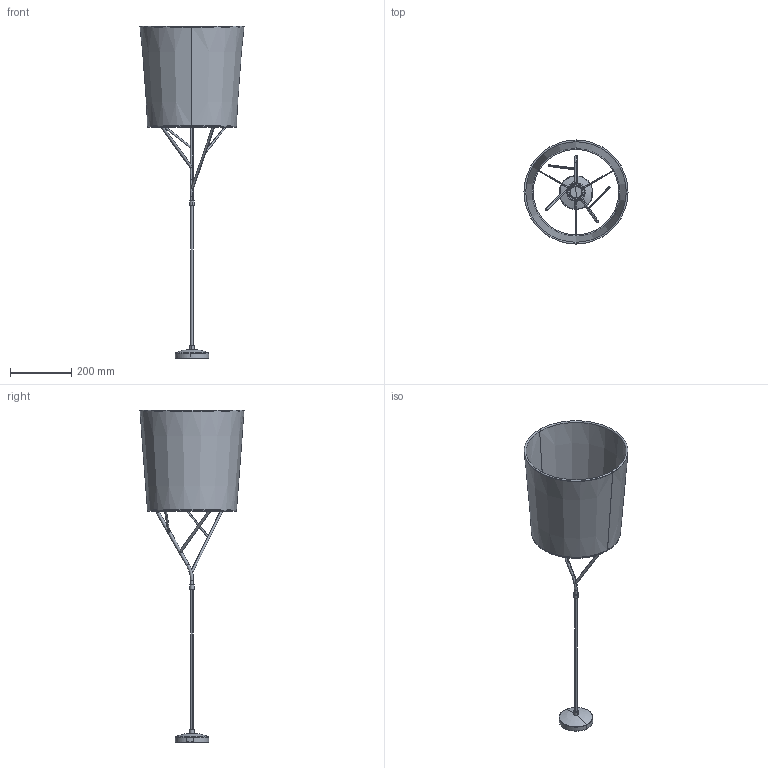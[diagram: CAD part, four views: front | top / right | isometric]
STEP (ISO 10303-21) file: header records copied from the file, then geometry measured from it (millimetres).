
FILE_DESCRIPTION(/* description */ (''),/* implementation_level */ '2;1');
FILE_NAME(/* name */ 'C:\Users\Franco Sartori E\Documents\FARO\DUPLICADO\Modelos\01_Digitalizados\00_OK\00_TREE\03_Publicación\29865.stp',/* time_stamp */ '2021-03-10T16:38:17+01:00',/* author */ ('Franco Sartori E'),/* organization */ (''),/* preprocessor_version */ 'ST-DEVELOPER v18.1',/* originating_system */ 'AutoCAD Mechanical',/* authorisation */ '');
FILE_SCHEMA (('AUTOMOTIVE_DESIGN { 1 0 10303 214 3 1 1 }'));
Length unit declared in the file: millimetre
Products named in the file (3): Product; TREE_CS - ceiling support-588587-Export; TREE_L - LAMP_S-588588-Export
Assembly tree (2 placements, depth 2):
  Product
    TREE_CS - ceiling support-588587-Export
    TREE_L - LAMP_S-588588-Export
Bounding box: 339.56 x 339.56 x 1082.91 mm (x, y, z)
Volume: 774312.8 mm3; surface area: 1415915.4 mm2
Topology: 12 solids, 12 shells, 192 faces, 422 edges, 250 vertices
Faces by surface type: cylinder 80, plane 80, torus 20, cone 8, bspline 4
Entity records: 7933 total; most frequent: CARTESIAN_POINT 3719, DIRECTION 857, ORIENTED_EDGE 844, EDGE_CURVE 422, AXIS2_PLACEMENT_3D 335, VERTEX_POINT 250, EDGE_LOOP 204, FACE_OUTER_BOUND 192
